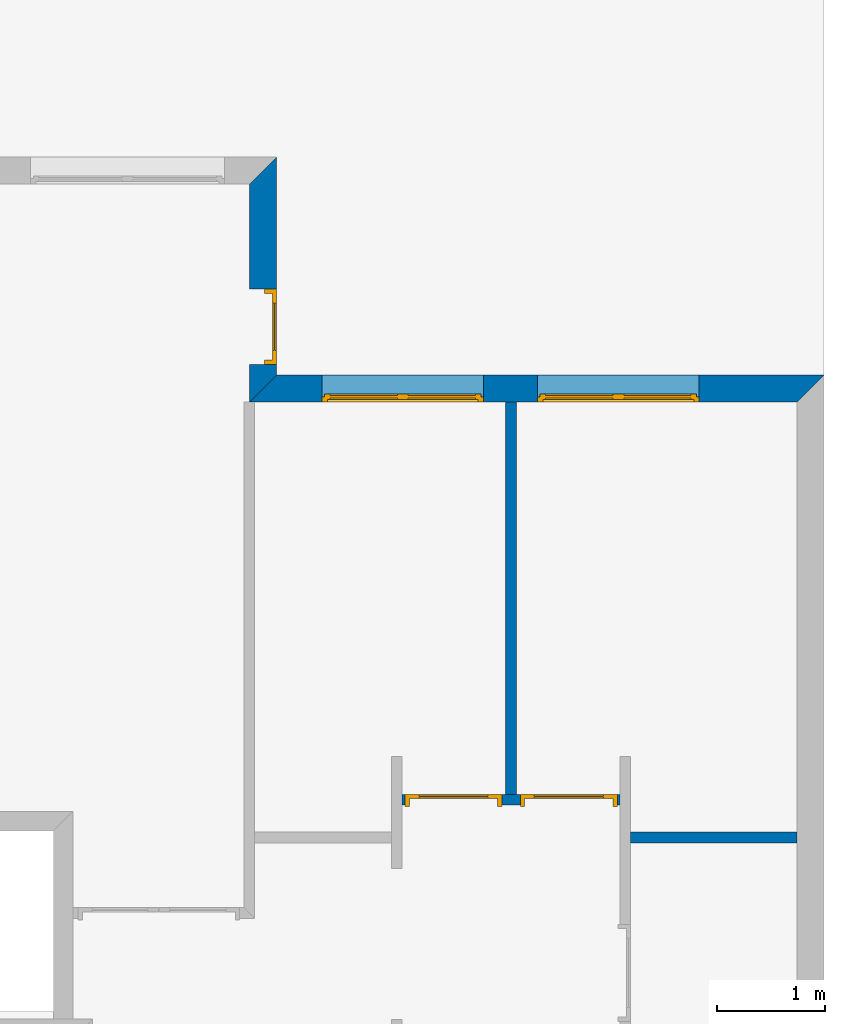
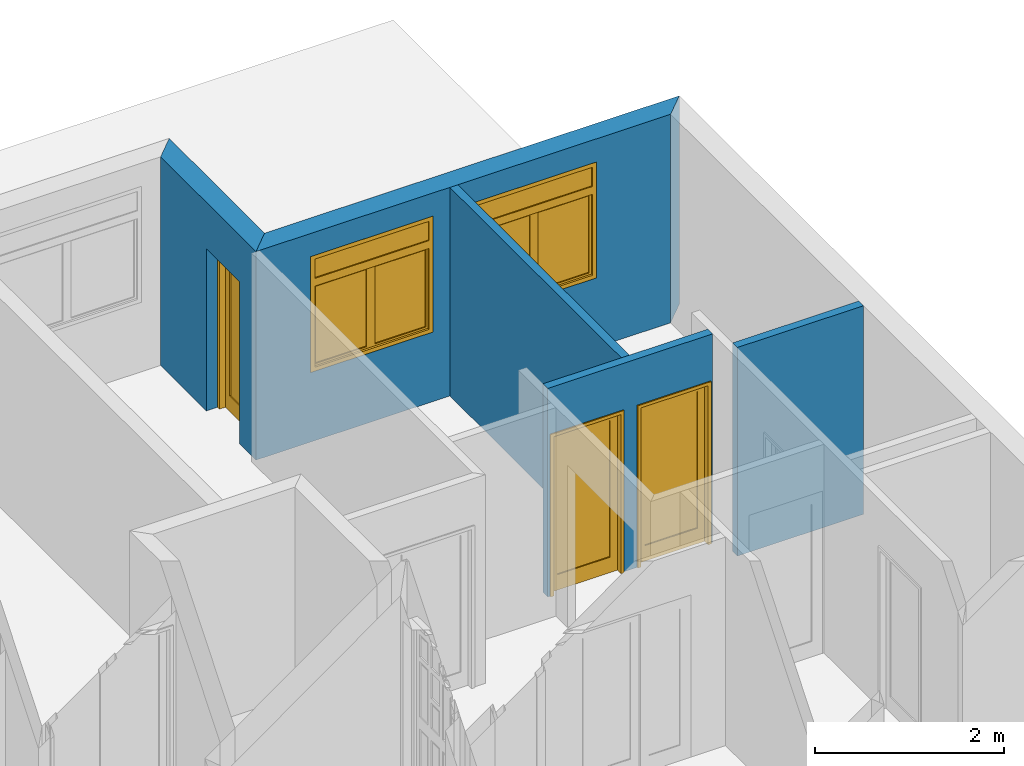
# One storey, part 12 of 12: 5 walls, 3 doors, 2 windows, 5 openings.
"""IFC2X3 building model written with IfcOpenShell, lengths in metres."""

import ifcopenshell
import ifcopenshell.guid

model = None  # the IFC model being written
_history = None  # IfcOwnerHistory: only IFC2X3 demands one
_inside = {}  # id of a spatial element -> (the spatial element, [elements in it])
_under = {}  # id of a project, library or spatial element -> (it, [spatial elements below it])
_declared = {}  # id of a project -> (the project, [libraries it declares])
_typed = {}  # id of a type object -> (the type object, [elements of that type])
_made_of = {}  # id of a material, layer set ... -> (it, [elements and type objects made of it])


def new_model(schema):
    """Start an empty IFC model of exactly this schema.

    Asked for "IFC4X3", IfcOpenShell would pick the latest addendum, in which some entities
    have other attributes; the version numbers below select the first issue.
    IFC2X3 requires an IfcOwnerHistory on every rooted entity: one is made here for all.
    """
    global model, _history
    if schema == "IFC4X3":
        model = ifcopenshell.file(schema_version=(4, 3, 0, 0))
    else:
        model = ifcopenshell.file(schema=schema)
    _inside.clear()
    _under.clear()
    _declared.clear()
    _typed.clear()
    _made_of.clear()
    _history = None
    if model.schema == "IFC2X3":
        org = make("IfcOrganization", Name="unknown")
        user = make(
            "IfcPersonAndOrganization",
            ThePerson=make("IfcPerson", FamilyName="unknown"),
            TheOrganization=org,
        )
        app = make(
            "IfcApplication",
            ApplicationDeveloper=org,
            Version="unknown",
            ApplicationFullName="unknown",
            ApplicationIdentifier="unknown",
        )
        _history = make(
            "IfcOwnerHistory",
            OwningUser=user,
            OwningApplication=app,
            ChangeAction="ADDED",
            CreationDate=0,
        )
    return model


def make(cls, **values):
    """One entity of the class cls with the attributes given. An attribute that is None is left unset."""
    return model.create_entity(
        cls, **{name: value for name, value in values.items() if value is not None}
    )


def entity(cls, *values):
    """Any entity or typed value of the class cls, its attributes in the order of the schema. None: left unset."""
    e = model.create_entity(cls)
    for i, value in enumerate(values):
        if value is not None:
            e[i] = value
    return e


def rooted(cls, **values):
    """An entity with a GlobalId (a new one), such as an element, a storey or a relation."""
    return make(cls, GlobalId=ifcopenshell.guid.new(), OwnerHistory=_history, **values)


def si_unit(unit_type, name, prefix=None):
    """IfcSIUnit, for example si_unit("LENGTHUNIT", "METRE", prefix="MILLI")."""
    return make("IfcSIUnit", UnitType=unit_type, Prefix=prefix, Name=name)


def converted_unit(unit_type, name, factor, base, dimensions=None, offset=None):
    """IfcConversionBasedUnit, such as the inch: factor (a typed value) times the base unit."""
    return make(
        "IfcConversionBasedUnit"
        if offset is None
        else "IfcConversionBasedUnitWithOffset",
        ConversionOffset=offset,
        Dimensions=None
        if dimensions is None
        else entity("IfcDimensionalExponents", *dimensions),
        UnitType=unit_type,
        Name=name,
        ConversionFactor=make(
            "IfcMeasureWithUnit", ValueComponent=factor, UnitComponent=base
        ),
    )


def assignment(units):
    """IfcUnitAssignment: the units of a project."""
    return None if units is None else make("IfcUnitAssignment", Units=units)


def point(xyz):
    """IfcCartesianPoint."""
    return None if xyz is None else make("IfcCartesianPoint", Coordinates=xyz)


def direction(xyz):
    """IfcDirection."""
    return None if xyz is None else make("IfcDirection", DirectionRatios=xyz)


def frame(location, z_axis=None, x_axis=None):
    """IfcAxis2Placement3D, a coordinate frame: its origin and axes. An axis left out is left unset."""
    return make(
        "IfcAxis2Placement3D",
        Location=point(location),
        Axis=direction(z_axis),
        RefDirection=direction(x_axis),
    )


def frame_2d(location, x_axis=None):
    """IfcAxis2Placement2D, a coordinate frame in the plane: its origin and x axis."""
    return make(
        "IfcAxis2Placement2D", Location=point(location), RefDirection=direction(x_axis)
    )


def origin_with_axes():
    """The frame at (0, 0, 0) with the z axis (0, 0, 1) and the x axis (1, 0, 0) written out."""
    return frame((0.0, 0.0, 0.0), z_axis=(0.0, 0.0, 1.0), x_axis=(1.0, 0.0, 0.0))


def place(relative_to, where):
    """IfcLocalPlacement: puts the frame where relative to a parent placement (None: the world)."""
    return make(
        "IfcLocalPlacement", PlacementRelTo=relative_to, RelativePlacement=where
    )


def context(
    kind, dimensions, precision=None, world=None, true_north=None, identifier=None
):
    """IfcGeometricRepresentationContext, for example the 3D "Model" context."""
    return make(
        "IfcGeometricRepresentationContext",
        ContextIdentifier=identifier,
        ContextType=kind,
        CoordinateSpaceDimension=dimensions,
        Precision=precision,
        WorldCoordinateSystem=world,
        TrueNorth=true_north,
    )


def project(units=None, contexts=None):
    """IfcProject with its units and contexts."""
    return rooted(
        "IfcProject",
        Name="project",
        RepresentationContexts=contexts,
        UnitsInContext=assignment(units),
    )


def spatial(cls, under=None, at=None, **own):
    """A site, building, storey or space (cls), placed at a placement, below another one or the project."""
    s = rooted(cls, ObjectPlacement=at, **own)
    if under is not None:
        _under.setdefault(under.id(), (under, []))[1].append(s)
    return s


def polyline(points):
    """IfcPolyline through the points."""
    return make("IfcPolyline", Points=[point(p) for p in points])


def profile(cls, at=None, kind="AREA", **sizes):
    """A parametric profile (cls). Its sizes go by their IFC names, for example OverallWidth=200.0."""
    return make(cls, ProfileType=kind, Position=at, **sizes)


def rectangle(**sizes):
    """IfcRectangleProfileDef."""
    return profile("IfcRectangleProfileDef", **sizes)


def outline(outer, holes=None, kind="AREA"):
    """IfcArbitraryClosedProfileDef: a profile drawn as a closed curve; with holes, ...WithVoids."""
    if holes is None:
        return make("IfcArbitraryClosedProfileDef", ProfileType=kind, OuterCurve=outer)
    return make(
        "IfcArbitraryProfileDefWithVoids",
        ProfileType=kind,
        OuterCurve=outer,
        InnerCurves=holes,
    )


def extrude(swept, where, along, depth):
    """IfcExtrudedAreaSolid: the profile swept, set in the frame where, extruded along a direction by depth."""
    return make(
        "IfcExtrudedAreaSolid",
        SweptArea=swept,
        Position=where,
        ExtrudedDirection=direction(along),
        Depth=depth,
    )


def faces_of(points, faces, orient=None, outer=None):
    """IfcFace entities. A face is a list of loops; a loop is a list of indices into points, from 0.

    orient and outer hold one flag for each loop. By default every Orientation is true, the
    first loop of a face is its IfcFaceOuterBound and the others are IfcFaceBound.
    """
    made = []
    for i, loops in enumerate(faces):
        bounds = []
        for j, loop in enumerate(loops):
            is_outer = j == 0 if outer is None else outer[i][j]
            bounds.append(
                make(
                    "IfcFaceOuterBound" if is_outer else "IfcFaceBound",
                    Bound=make("IfcPolyLoop", Polygon=[points[k] for k in loop]),
                    Orientation=True if orient is None else orient[i][j],
                )
            )
        made.append(make("IfcFace", Bounds=bounds))
    return made


def faceted_brep(points, faces, orient=None, outer=None, voids=None):
    """IfcFacetedBrep: a solid bounded by flat faces; with voids (closed shells), ...WithVoids."""
    shared = [point(p) for p in points]
    hull = make("IfcClosedShell", CfsFaces=faces_of(shared, faces, orient, outer))
    if voids is None:
        return make("IfcFacetedBrep", Outer=hull)
    return make(
        "IfcFacetedBrepWithVoids",
        Outer=hull,
        Voids=[
            make(cls, CfsFaces=faces_of(shared, fs, o, b)) for cls, fs, o, b in voids
        ],
    )


def shape(context_of_items, identifier, shape_type, items):
    """IfcShapeRepresentation: the items that make up one representation, for example the "Body"."""
    return make(
        "IfcShapeRepresentation",
        ContextOfItems=context_of_items,
        RepresentationIdentifier=identifier,
        RepresentationType=shape_type,
        Items=items,
    )


def source(mapping_origin, context_of_items, identifier, shape_type, items):
    """IfcRepresentationMap: a shape defined once, which mapped items show again and again."""
    return make(
        "IfcRepresentationMap",
        MappingOrigin=mapping_origin,
        MappedRepresentation=shape(context_of_items, identifier, shape_type, items),
    )


def transform(
    local_origin,
    x_axis=None,
    y_axis=None,
    z_axis=None,
    scale=None,
    scale2=None,
    scale3=None,
    uniform=True,
):
    """IfcCartesianTransformationOperator3D, or its non-uniform kind. x_axis, y_axis, z_axis: its Axis1, 2, 3."""
    if uniform:
        return make(
            "IfcCartesianTransformationOperator3D",
            Axis1=direction(x_axis),
            Axis2=direction(y_axis),
            LocalOrigin=point(local_origin),
            Scale=scale,
            Axis3=direction(z_axis),
        )
    return make(
        "IfcCartesianTransformationOperator3DnonUniform",
        Axis1=direction(x_axis),
        Axis2=direction(y_axis),
        LocalOrigin=point(local_origin),
        Scale=scale,
        Axis3=direction(z_axis),
        Scale2=scale2,
        Scale3=scale3,
    )


def mapped(mapping_source, mapping_target):
    """IfcMappedItem: shows the shape of a source again, moved by a transform."""
    return make(
        "IfcMappedItem", MappingSource=mapping_source, MappingTarget=mapping_target
    )


def material(Name=None, Category=None):
    """IfcMaterial."""
    return make("IfcMaterial", Name=Name, Category=Category)


def layer(
    of_material, thickness, ventilated=None, Name=None, Category=None, Priority=None
):
    """IfcMaterialLayer: one layer of a wall or slab, of a material (None: an air gap)."""
    return make(
        "IfcMaterialLayer",
        Material=of_material,
        LayerThickness=thickness,
        IsVentilated=ventilated,
        Name=Name,
        Category=Category,
        Priority=Priority,
    )


def layer_set(layers, Name=None):
    """IfcMaterialLayerSet."""
    return make("IfcMaterialLayerSet", MaterialLayers=layers, LayerSetName=Name)


def layer_usage(for_layer_set, set_direction, sense, offset, extent=None):
    """IfcMaterialLayerSetUsage: how a layer set lies in its element."""
    return make(
        "IfcMaterialLayerSetUsage",
        ForLayerSet=for_layer_set,
        LayerSetDirection=set_direction,
        DirectionSense=sense,
        OffsetFromReferenceLine=offset,
        ReferenceExtent=extent,
    )


def made_of(thing, what):
    """Note that an element or type object is made of a material, layer set ...; save() writes the relation."""
    if what is not None:
        _made_of.setdefault(what.id(), (what, []))[1].append(thing)
    return thing


def type_object(cls, material=None, **own):
    """A type object (cls), such as IfcWallType, which elements share."""
    return made_of(rooted(cls, **own), material)


def element(
    cls,
    number,
    at=None,
    inside=None,
    cuts=None,
    type_object=None,
    material=None,
    context=None,
    identifier="Body",
    shape_type=None,
    held_by="IfcProductDefinitionShape",
    body=None,
    shapes=None,
    **own,
):
    """One element of the class cls, such as IfcWall. Its Tag is "e" and its number.

    at: its placement. inside: the storey or other place that contains it. cuts: it is an
    opening in that element (IfcRelVoidsElement). A single representation is given by context,
    identifier, shape_type and body (its items); several are given by shapes. held_by: the class
    of the entity that holds the representations. save() writes the other relations.
    """
    e = rooted(cls, Tag="e%d" % number, ObjectPlacement=at, **own)
    if body is not None:
        shapes = [shape(context, identifier, shape_type, body)]
    if shapes is not None:
        e.Representation = make(held_by, Representations=shapes)
    if inside is not None:
        _inside.setdefault(inside.id(), (inside, []))[1].append(e)
    if cuts is not None:
        rooted(
            "IfcRelVoidsElement", RelatingBuildingElement=cuts, RelatedOpeningElement=e
        )
    if type_object is not None:
        _typed.setdefault(type_object.id(), (type_object, []))[1].append(e)
    return made_of(e, material)


def fill(opening, filler):
    """IfcRelFillsElement: the door or window that sits in an opening."""
    return rooted(
        "IfcRelFillsElement",
        RelatingOpeningElement=opening,
        RelatedBuildingElement=filler,
    )


def aggregate(whole, parts):
    """IfcRelAggregates: a whole, such as a stair, and the parts it consists of."""
    return rooted("IfcRelAggregates", RelatingObject=whole, RelatedObjects=parts)


def save(model, path):
    """Write the relations noted so far, then the file.

    IfcRelAggregates (storeys below a building ...), IfcRelContainedInSpatialStructure (elements
    in a storey), IfcRelDefinesByType, IfcRelAssociatesMaterial and IfcRelDeclares: one each for
    every whole, place, type object, material and project.
    """
    for whole, parts in _under.values():
        aggregate(whole, parts)
    for where, things in _inside.values():
        rooted(
            "IfcRelContainedInSpatialStructure",
            RelatedElements=things,
            RelatingStructure=where,
        )
    for kind, things in _typed.values():
        rooted("IfcRelDefinesByType", RelatedObjects=things, RelatingType=kind)
    for what, things in _made_of.values():
        rooted("IfcRelAssociatesMaterial", RelatedObjects=things, RelatingMaterial=what)
    for by, libraries in _declared.values():
        rooted("IfcRelDeclares", RelatingContext=by, RelatedDefinitions=libraries)
    model.write(path)


model = new_model("IFC2X3")

# Units and contexts
context_of_model = context(None, 3, precision=1e-05, world=origin_with_axes(), true_north=direction((6.123234e-17, 1.0)))
plan_context = context("Plan", 3, precision=1e-05, world=origin_with_axes(), true_north=direction((6.123234e-17, 1.0)))
model_context = context("Model", 3, precision=1e-05, world=origin_with_axes(), true_north=direction((6.123234e-17, 1.0)))
ifc_project = project(units=[si_unit("LENGTHUNIT", "METRE"), si_unit("AREAUNIT", "SQUARE_METRE"), si_unit("VOLUMEUNIT", "CUBIC_METRE"), converted_unit("PLANEANGLEUNIT", "DEGREE", entity("IfcPlaneAngleMeasure", 0.017453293), si_unit("PLANEANGLEUNIT", "RADIAN"), dimensions=[0, 0, 0, 0, 0, 0, 0]), si_unit("SOLIDANGLEUNIT", "STERADIAN"), si_unit("MASSUNIT", "GRAM"), si_unit("TIMEUNIT", "SECOND"), si_unit("THERMODYNAMICTEMPERATUREUNIT", "DEGREE_CELSIUS"), si_unit("LUMINOUSINTENSITYUNIT", "LUMEN")], contexts=[context_of_model, plan_context, model_context])

# Site, building, storey
site_placement = place(None, origin_with_axes())
site = spatial("IfcSite", under=ifc_project, at=site_placement, Name="Por defecto Sitio", CompositionType="ELEMENT")
building_placement = place(site_placement, origin_with_axes())
building = spatial("IfcBuilding", under=site, at=building_placement, Name="Por defecto Edificio", CompositionType="ELEMENT")
storey_placement = place(building_placement, frame((0.0, 0.0, 4.2), z_axis=(0.0, 0.0, 1.0), x_axis=(1.0, 0.0, 0.0)))
storey = spatial("IfcBuildingStorey", under=building, at=storey_placement, Name="Primera", CompositionType="ELEMENT", Elevation=4.2)

# Wall, opening, door
ifc_material = material(Name="Ladrillo común")
ifc_layer_1 = layer(ifc_material, 0.25, ventilated="UNKNOWN")
ifc_layer_set_1 = layer_set([ifc_layer_1], Name="Ladrillo común")
ifc_layer_usage_1 = layer_usage(ifc_layer_set_1, "AXIS2", "NEGATIVE", 0.0)
wall_type_1 = type_object("IfcWallType", Name="Ladrillo común", PredefinedType="NOTDEFINED")
wall_1_placement = place(storey_placement, frame((10.956053, 15.472599, 0.0), z_axis=(0.0, 0.0, 1.0), x_axis=(0.0, -1.0, 0.0)))
wall_1 = element("IfcWallStandardCase", 1, at=wall_1_placement, inside=storey, type_object=wall_type_1, material=ifc_layer_usage_1, Name="Muro-015", context=context_of_model, shape_type="SweptSolid", body=[
    extrude(outline(polyline([(0.25, -0.25), (2.2734265, -0.25), (2.0234265, 0.0), (0.0, 0.0), (0.25, -0.25)])), origin_with_axes(), (0.0, 0.0, 1.0), 2.7),
])
opening_1_placement = place(wall_1_placement, frame((1.5733904, -0.25, 0.0), z_axis=(0.0, 0.0, 1.0), x_axis=(1.0, 0.0, 0.0)))
opening_1 = element("IfcOpeningElement", 2, at=opening_1_placement, cuts=wall_1, ObjectType="Opening", context=model_context, shape_type="SweptSolid", body=[
    extrude(rectangle(XDim=0.7, YDim=2.1, at=frame_2d((0.0, 1.05), x_axis=(-1.0, 0.0))), frame((0.0, 0.0, 0.0), z_axis=(0.0, 1.0, 0.0), x_axis=(-1.0, 0.0, 0.0)), (0.0, 0.0, 1.0), 0.25),
])
door_style_1 = type_object("IfcDoorStyle", Name="P1 12", ConstructionType="NOTDEFINED", OperationType="SINGLE_SWING_RIGHT", ParameterTakesPrecedence=False, Sizeable=False)
shared_shape_1 = source(origin_with_axes(), model_context, "Body", "Brep", [
    faceted_brep([(0.04, 0.075, 0.0), (0.04, 0.075, 2.06), (0.04, 0.0, 2.06), (0.04, 0.0, 0.0), (0.028, 0.075, 2.06), (0.028, 0.075, 0.0), (0.028, 0.115, 2.06), (0.0, 0.115, 2.06), (0.0, 0.0, 2.06), (0.0, 0.0, 0.0), (0.0, 0.115, 0.0), (0.028, 0.115, 0.0)], [[[0, 1, 2, 3]], [[4, 1, 0, 5]], [[4, 6, 7, 8, 2, 1]], [[9, 3, 2, 8]], [[5, 0, 3, 9, 10, 11]], [[6, 4, 5, 11]], [[6, 11, 10, 7]], [[8, 7, 10, 9]]]),
    faceted_brep([(0.672, 0.075, 2.06), (0.66, 0.075, 2.06), (0.66, 0.0, 2.06), (0.7, 0.0, 2.06), (0.7, 0.115, 2.06), (0.672, 0.115, 2.06), (0.672, 0.075, 0.0), (0.66, 0.075, 0.0), (0.66, 0.0, 0.0), (0.7, 0.0, 0.0), (0.7, 0.115, 0.0), (0.672, 0.115, 0.0)], [[[0, 1, 2, 3, 4, 5]], [[1, 0, 6, 7]], [[1, 7, 8, 2]], [[8, 9, 3, 2]], [[9, 10, 4, 3]], [[11, 5, 4, 10]], [[0, 5, 11, 6]], [[6, 11, 10, 9, 8, 7]]]),
    faceted_brep([(0.028, 0.115, 2.072), (0.028, 0.115, 2.06), (0.0, 0.115, 2.06), (0.0, 0.115, 2.1), (0.7, 0.115, 2.1), (0.7, 0.115, 2.06), (0.672, 0.115, 2.06), (0.672, 0.115, 2.072), (0.028, 0.075, 2.072), (0.028, 0.075, 2.06), (0.04, 0.075, 2.06), (0.04, 0.0, 2.06), (0.0, 0.0, 2.06), (0.0, 0.0, 2.1), (0.7, 0.0, 2.1), (0.7, 0.0, 2.06), (0.672, 0.075, 2.06), (0.66, 0.0, 2.06), (0.66, 0.075, 2.06), (0.672, 0.075, 2.072)], [[[0, 1, 2, 3, 4, 5, 6, 7]], [[1, 0, 8, 9]], [[9, 10, 11, 12, 2, 1]], [[13, 3, 2, 12]], [[14, 4, 3, 13]], [[15, 5, 4, 14]], [[16, 6, 5, 15, 17, 18]], [[7, 6, 16, 19]], [[0, 7, 19, 8]], [[16, 18, 10, 9, 8, 19]], [[10, 18, 17, 11]], [[14, 13, 12, 11, 17, 15]]]),
    faceted_brep([(0.672, 0.115, 0.2), (0.672, 0.075, 0.2), (0.572, 0.075, 0.2), (0.572, 0.115, 0.2), (0.672, 0.115, 1.972), (0.672, 0.075, 1.972), (0.572, 0.075, 1.972), (0.572, 0.115, 1.972)], [[[0, 1, 2, 3]], [[4, 5, 1, 0]], [[1, 5, 6, 2]], [[3, 2, 6, 7]], [[0, 3, 7, 4]], [[7, 6, 5, 4]]]),
    faceted_brep([(0.028, 0.115, 0.2), (0.028, 0.075, 0.2), (0.028, 0.075, 1.972), (0.028, 0.115, 1.972), (0.128, 0.115, 0.2), (0.128, 0.075, 0.2), (0.128, 0.075, 1.972), (0.128, 0.115, 1.972)], [[[0, 1, 2, 3]], [[4, 5, 1, 0]], [[1, 5, 6, 2]], [[3, 2, 6, 7]], [[0, 3, 7, 4]], [[7, 6, 5, 4]]]),
    faceted_brep([(0.672, 0.115, 0.0), (0.672, 0.075, 0.0), (0.028, 0.075, 0.0), (0.028, 0.115, 0.0), (0.672, 0.115, 0.2), (0.672, 0.075, 0.2), (0.572, 0.075, 0.2), (0.128, 0.075, 0.2), (0.028, 0.075, 0.2), (0.028, 0.115, 0.2), (0.128, 0.115, 0.2), (0.572, 0.115, 0.2)], [[[0, 1, 2, 3]], [[4, 5, 1, 0]], [[1, 5, 6, 7, 8, 2]], [[3, 2, 8, 9]], [[0, 3, 9, 10, 11, 4]], [[11, 6, 5, 4]], [[10, 7, 6, 11]], [[9, 8, 7, 10]]]),
    faceted_brep([(0.672, 0.115, 2.072), (0.672, 0.075, 2.072), (0.672, 0.075, 1.972), (0.672, 0.115, 1.972), (0.028, 0.115, 2.072), (0.028, 0.075, 2.072), (0.028, 0.075, 1.972), (0.128, 0.075, 1.972), (0.572, 0.075, 1.972), (0.572, 0.115, 1.972), (0.128, 0.115, 1.972), (0.028, 0.115, 1.972)], [[[0, 1, 2, 3]], [[4, 5, 1, 0]], [[1, 5, 6, 7, 8, 2]], [[3, 2, 8, 9]], [[0, 3, 9, 10, 11, 4]], [[11, 6, 5, 4]], [[10, 7, 6, 11]], [[9, 8, 7, 10]]]),
    faceted_brep([(0.572, 0.101, 0.2), (0.572, 0.089, 0.2), (0.128, 0.089, 0.2), (0.128, 0.101, 0.2), (0.572, 0.101, 1.972), (0.572, 0.089, 1.972), (0.128, 0.089, 1.972), (0.128, 0.101, 1.972)], [[[0, 1, 2, 3]], [[4, 5, 1, 0]], [[1, 5, 6, 2]], [[3, 2, 6, 7]], [[0, 3, 7, 4]], [[7, 6, 5, 4]]]),
])
door_1_placement = place(opening_1_placement, frame((-0.35, 0.135, 0.0), z_axis=(0.0, 0.0, 1.0), x_axis=(1.0, 0.0, 0.0)))
door_1 = element("IfcDoor", 3, at=door_1_placement, inside=storey, type_object=door_style_1, Name="P20", OverallHeight=2.1, OverallWidth=0.7, context=model_context, shape_type="MappedRepresentation", body=[
    mapped(shared_shape_1, transform((0.0, 0.0, 0.0), scale=1.0)),
])
fill(opening_1, door_1)

# Wall, openings, windows
ifc_layer_usage_2 = layer_usage(ifc_layer_set_1, "AXIS2", "NEGATIVE", 0.0)
wall_2_placement = place(storey_placement, frame((10.956053, 13.449173, 0.0), z_axis=(0.0, 0.0, 1.0), x_axis=(1.0, 0.0, 0.0)))
wall_2 = element("IfcWallStandardCase", 4, at=wall_2_placement, inside=storey, type_object=wall_type_1, material=ifc_layer_usage_2, Name="Muro-016", context=context_of_model, shape_type="SweptSolid", body=[
    extrude(outline(polyline([(-0.25, -0.25), (4.8281164, -0.25), (5.0781164, 0.0), (0.0, 0.0), (-0.25, -0.25)])), origin_with_axes(), (0.0, 0.0, 1.0), 2.7),
])
opening_2_placement = place(wall_2_placement, frame((3.1700422, -0.25, 0.9), z_axis=(0.0, 0.0, 1.0), x_axis=(1.0, 0.0, 0.0)))
opening_2 = element("IfcOpeningElement", 5, at=opening_2_placement, cuts=wall_2, ObjectType="Opening", context=model_context, shape_type="SweptSolid", body=[
    extrude(rectangle(XDim=1.5, YDim=1.5, at=frame_2d((0.0, 0.75), x_axis=(-1.0, 0.0))), frame((0.0, 0.0, 0.0), z_axis=(0.0, 1.0, 0.0), x_axis=(-1.0, 0.0, 0.0)), (0.0, 0.0, 1.0), 0.25),
])
opening_3_placement = place(wall_2_placement, frame((1.1700422, -0.25, 0.9), z_axis=(0.0, 0.0, 1.0), x_axis=(1.0, 0.0, 0.0)))
opening_3 = element("IfcOpeningElement", 6, at=opening_3_placement, cuts=wall_2, ObjectType="Opening", context=model_context, shape_type="SweptSolid", body=[
    extrude(rectangle(XDim=1.5, YDim=1.5, at=frame_2d((0.0, 0.75), x_axis=(-1.0, 0.0))), frame((0.0, 0.0, 0.0), z_axis=(0.0, 1.0, 0.0), x_axis=(-1.0, 0.0, 0.0)), (0.0, 0.0, 1.0), 0.25),
])
window_style_1 = type_object("IfcWindowStyle", Name="V M Doble 12", ConstructionType="NOTDEFINED", OperationType="DOUBLE_PANEL_HORIZONTAL", ParameterTakesPrecedence=False, Sizeable=False)
shared_shape_2 = source(origin_with_axes(), model_context, "Body", "Brep", [
    faceted_brep([(0.025, 0.05, 0.05), (0.0, 0.05, 0.05), (0.0, 0.05, 1.45), (0.05, 0.05, 1.45), (0.05, 0.05, 1.2), (0.05, 0.05, 1.125), (0.025, 0.05, 1.125), (0.025, 0.025, 0.05), (0.05, 0.025, 0.05), (0.05, 0.0, 0.05), (0.0, 0.0, 0.05), (0.0, 0.0, 1.45), (0.05, 0.0, 1.45), (0.05, 0.0, 1.2), (0.05, 0.025, 1.125), (0.05, 0.0, 1.1), (0.05, 0.025, 1.1), (0.025, 0.025, 1.125)], [[[0, 1, 2, 3, 4, 5, 6]], [[7, 8, 9, 10, 1, 0]], [[2, 1, 10, 11]], [[3, 2, 11, 12]], [[4, 3, 12, 13]], [[14, 5, 4, 13, 15, 16]], [[14, 17, 6, 5]], [[6, 17, 7, 0]], [[16, 8, 7, 17, 14]], [[16, 15, 9, 8]], [[13, 12, 11, 10, 9, 15]]]),
    faceted_brep([(1.475, 0.05, 1.125), (1.45, 0.05, 1.125), (1.45, 0.05, 1.2), (1.45, 0.05, 1.45), (1.5, 0.05, 1.45), (1.5, 0.05, 0.05), (1.475, 0.05, 0.05), (1.475, 0.025, 1.125), (1.45, 0.025, 1.125), (1.45, 0.025, 1.1), (1.45, 0.0, 1.1), (1.45, 0.0, 1.2), (1.45, 0.0, 1.45), (1.5, 0.0, 1.45), (1.5, 0.0, 0.05), (1.475, 0.025, 0.05), (1.45, 0.0, 0.05), (1.45, 0.025, 0.05)], [[[0, 1, 2, 3, 4, 5, 6]], [[0, 7, 8, 1]], [[8, 9, 10, 11, 2, 1]], [[3, 2, 11, 12]], [[4, 3, 12, 13]], [[5, 4, 13, 14]], [[15, 6, 5, 14, 16, 17]], [[6, 15, 7, 0]], [[17, 9, 8, 7, 15]], [[17, 16, 10, 9]], [[14, 13, 12, 11, 10, 16]]]),
    faceted_brep([(0.05, 0.05, 1.125), (0.05, 0.05, 1.2), (1.45, 0.05, 1.2), (1.45, 0.05, 1.125), (0.75, 0.05, 1.125), (0.05, 0.025, 1.125), (0.05, 0.025, 1.1), (0.05, 0.0, 1.1), (0.05, 0.0, 1.2), (1.45, 0.0, 1.2), (1.45, 0.025, 1.125), (1.45, 0.0, 1.1), (1.45, 0.025, 1.1), (0.75, 0.025, 1.125)], [[[0, 1, 2, 3, 4]], [[5, 6, 7, 8, 1, 0]], [[2, 1, 8, 9]], [[10, 3, 2, 9, 11, 12]], [[10, 13, 4, 3]], [[4, 13, 5, 0]], [[12, 6, 5, 13, 10]], [[12, 11, 7, 6]], [[9, 8, 7, 11]]]),
    faceted_brep([(1.45, 0.025, 0.05), (1.45, 0.0, 0.05), (1.5, 0.0, 0.05), (1.5, 0.05, 0.05), (1.475, 0.05, 0.05), (1.475, 0.025, 0.05), (0.05, 0.025, 0.05), (0.05, 0.0, 0.05), (0.0, 0.0, 0.05), (0.0, 0.0, 0.0), (1.5, 0.0, 0.0), (1.5, 0.05, 0.0), (0.025, 0.05, 0.025), (0.75, 0.05, 0.025), (1.475, 0.05, 0.025), (0.0, 0.05, 0.0), (0.0, 0.05, 0.05), (0.025, 0.05, 0.05), (1.475, 0.025, 0.025), (0.75, 0.025, 0.025), (0.025, 0.025, 0.025), (0.025, 0.025, 0.05)], [[[0, 1, 2, 3, 4, 5]], [[6, 7, 1, 0]], [[8, 9, 10, 2, 1, 7]], [[11, 3, 2, 10]], [[12, 13, 14, 4, 3, 11, 15, 16, 17]], [[14, 18, 5, 4]], [[5, 18, 19, 20, 21, 6, 0]], [[21, 17, 16, 8, 7, 6]], [[16, 15, 9, 8]], [[15, 11, 10, 9]], [[12, 20, 19, 13]], [[13, 19, 18, 14]], [[21, 20, 12, 17]]]),
    faceted_brep([(1.45, 0.0, 1.45), (1.45, 0.05, 1.45), (1.5, 0.05, 1.45), (1.5, 0.0, 1.45), (0.05, 0.0, 1.45), (0.05, 0.05, 1.45), (0.0, 0.05, 1.45), (0.0, 0.05, 1.5), (1.5, 0.05, 1.5), (1.5, 0.0, 1.5), (0.0, 0.0, 1.5), (0.0, 0.0, 1.45)], [[[0, 1, 2, 3]], [[4, 5, 1, 0]], [[1, 5, 6, 7, 8, 2]], [[3, 2, 8, 9]], [[0, 3, 9, 10, 11, 4]], [[11, 6, 5, 4]], [[10, 7, 6, 11]], [[9, 8, 7, 10]]]),
    faceted_brep([(1.425, 0.025, 0.075), (1.425, 0.025, 1.075), (1.425, 0.075, 1.075), (1.425, 0.075, 0.075), (1.475, 0.025, 0.075), (1.475, 0.025, 1.075), (1.475, 0.075, 1.075), (1.475, 0.075, 0.075)], [[[0, 1, 2, 3]], [[0, 4, 5, 1]], [[1, 5, 6, 2]], [[3, 2, 6, 7]], [[4, 0, 3, 7]], [[5, 4, 7, 6]]]),
    faceted_brep([(0.75, 0.025, 0.075), (0.75, 0.025, 1.075), (0.75, 0.075, 1.075), (0.75, 0.075, 0.075), (0.8, 0.025, 0.075), (0.8, 0.025, 1.075), (0.8, 0.075, 1.075), (0.8, 0.075, 0.075)], [[[0, 1, 2, 3]], [[0, 4, 5, 1]], [[1, 5, 6, 2]], [[3, 2, 6, 7]], [[4, 0, 3, 7]], [[5, 4, 7, 6]]]),
    faceted_brep([(0.75, 0.025, 0.025), (0.75, 0.025, 0.075), (0.75, 0.075, 0.075), (0.75, 0.075, 0.025), (1.475, 0.025, 0.025), (1.475, 0.025, 0.075), (1.425, 0.025, 0.075), (0.8, 0.025, 0.075), (0.8, 0.075, 0.075), (1.425, 0.075, 0.075), (1.475, 0.075, 0.075), (1.475, 0.075, 0.025)], [[[0, 1, 2, 3]], [[0, 4, 5, 6, 7, 1]], [[1, 7, 8, 2]], [[3, 2, 8, 9, 10, 11]], [[4, 0, 3, 11]], [[5, 4, 11, 10]], [[6, 5, 10, 9]], [[7, 6, 9, 8]]]),
    faceted_brep([(1.475, 0.025, 1.125), (1.475, 0.025, 1.075), (1.475, 0.075, 1.075), (1.475, 0.075, 1.125), (0.75, 0.025, 1.125), (0.75, 0.025, 1.075), (0.8, 0.025, 1.075), (1.425, 0.025, 1.075), (1.425, 0.075, 1.075), (0.8, 0.075, 1.075), (0.75, 0.075, 1.075), (0.75, 0.075, 1.125)], [[[0, 1, 2, 3]], [[0, 4, 5, 6, 7, 1]], [[1, 7, 8, 2]], [[3, 2, 8, 9, 10, 11]], [[4, 0, 3, 11]], [[5, 4, 11, 10]], [[6, 5, 10, 9]], [[7, 6, 9, 8]]]),
    faceted_brep([(1.425, 0.04, 0.075), (0.8, 0.04, 0.075), (0.8, 0.06, 0.075), (1.425, 0.06, 0.075), (1.425, 0.04, 1.075), (0.8, 0.04, 1.075), (0.8, 0.06, 1.075), (1.425, 0.06, 1.075)], [[[0, 1, 2, 3]], [[0, 4, 5, 1]], [[1, 5, 6, 2]], [[3, 2, 6, 7]], [[4, 0, 3, 7]], [[5, 4, 7, 6]]]),
    faceted_brep([(0.7, 0.025, 0.075), (0.7, 0.025, 1.075), (0.7, 0.075, 1.075), (0.7, 0.075, 0.075), (0.75, 0.025, 0.075), (0.75, 0.025, 1.075), (0.75, 0.075, 1.075), (0.75, 0.075, 0.075)], [[[0, 1, 2, 3]], [[0, 4, 5, 1]], [[1, 5, 6, 2]], [[3, 2, 6, 7]], [[4, 0, 3, 7]], [[5, 4, 7, 6]]]),
    faceted_brep([(0.025, 0.025, 0.075), (0.025, 0.025, 1.075), (0.025, 0.075, 1.075), (0.025, 0.075, 0.075), (0.075, 0.025, 0.075), (0.075, 0.025, 1.075), (0.075, 0.075, 1.075), (0.075, 0.075, 0.075)], [[[0, 1, 2, 3]], [[0, 4, 5, 1]], [[1, 5, 6, 2]], [[3, 2, 6, 7]], [[4, 0, 3, 7]], [[5, 4, 7, 6]]]),
    faceted_brep([(0.025, 0.025, 0.025), (0.025, 0.025, 0.075), (0.025, 0.075, 0.075), (0.025, 0.075, 0.025), (0.75, 0.025, 0.025), (0.75, 0.025, 0.075), (0.7, 0.025, 0.075), (0.075, 0.025, 0.075), (0.075, 0.075, 0.075), (0.7, 0.075, 0.075), (0.75, 0.075, 0.075), (0.75, 0.075, 0.025)], [[[0, 1, 2, 3]], [[0, 4, 5, 6, 7, 1]], [[1, 7, 8, 2]], [[3, 2, 8, 9, 10, 11]], [[4, 0, 3, 11]], [[5, 4, 11, 10]], [[6, 5, 10, 9]], [[7, 6, 9, 8]]]),
    faceted_brep([(0.75, 0.025, 1.125), (0.75, 0.025, 1.075), (0.75, 0.075, 1.075), (0.75, 0.075, 1.125), (0.025, 0.025, 1.125), (0.025, 0.025, 1.075), (0.075, 0.025, 1.075), (0.7, 0.025, 1.075), (0.7, 0.075, 1.075), (0.075, 0.075, 1.075), (0.025, 0.075, 1.075), (0.025, 0.075, 1.125)], [[[0, 1, 2, 3]], [[0, 4, 5, 6, 7, 1]], [[1, 7, 8, 2]], [[3, 2, 8, 9, 10, 11]], [[4, 0, 3, 11]], [[5, 4, 11, 10]], [[6, 5, 10, 9]], [[7, 6, 9, 8]]]),
    faceted_brep([(0.7, 0.04, 0.075), (0.075, 0.04, 0.075), (0.075, 0.06, 0.075), (0.7, 0.06, 0.075), (0.7, 0.04, 1.075), (0.075, 0.04, 1.075), (0.075, 0.06, 1.075), (0.7, 0.06, 1.075)], [[[0, 1, 2, 3]], [[0, 4, 5, 1]], [[1, 5, 6, 2]], [[3, 2, 6, 7]], [[4, 0, 3, 7]], [[5, 4, 7, 6]]]),
    faceted_brep([(1.45, 0.015, 1.2), (0.05, 0.015, 1.2), (0.05, 0.035, 1.2), (1.45, 0.035, 1.2), (1.45, 0.015, 1.45), (0.05, 0.015, 1.45), (0.05, 0.035, 1.45), (1.45, 0.035, 1.45)], [[[0, 1, 2, 3]], [[0, 4, 5, 1]], [[1, 5, 6, 2]], [[3, 2, 6, 7]], [[4, 0, 3, 7]], [[5, 4, 7, 6]]]),
])
window_1_placement = place(opening_2_placement, frame((-0.75, 0.0, 0.0), z_axis=(0.0, 0.0, 1.0), x_axis=(1.0, 0.0, 0.0)))
window_1 = element("IfcWindow", 7, at=window_1_placement, inside=storey, type_object=window_style_1, Name="V17", OverallHeight=1.5, OverallWidth=1.5, context=model_context, shape_type="MappedRepresentation", body=[
    mapped(shared_shape_2, transform((0.0, 0.0, 0.0), scale=1.0)),
])
fill(opening_2, window_1)
window_style_2 = type_object("IfcWindowStyle", Name="V M Doble 12", ConstructionType="NOTDEFINED", OperationType="DOUBLE_PANEL_HORIZONTAL", ParameterTakesPrecedence=False, Sizeable=False)
window_2_placement = place(opening_3_placement, frame((-0.75, 0.0, 0.0), z_axis=(0.0, 0.0, 1.0), x_axis=(1.0, 0.0, 0.0)))
window_2 = element("IfcWindow", 8, at=window_2_placement, inside=storey, type_object=window_style_2, Name="V18", OverallHeight=1.5, OverallWidth=1.5, context=model_context, shape_type="MappedRepresentation", body=[
    mapped(shared_shape_2, transform((0.0, 0.0, 0.0), scale=1.0)),
])
fill(opening_3, window_2)

# Wall
ifc_layer_2 = layer(ifc_material, 0.1, ventilated="UNKNOWN")
ifc_layer_set_2 = layer_set([ifc_layer_2], Name="Ladrillo común")
ifc_layer_usage_3 = layer_usage(ifc_layer_set_2, "AXIS2", "NEGATIVE", 0.0)
wall_type_2 = type_object("IfcWallType", Name="Ladrillo común", PredefinedType="NOTDEFINED")
wall_3_placement = place(storey_placement, frame((13.079835, 9.4609196, 0.0), z_axis=(0.0, 0.0, 1.0), x_axis=(0.0, 1.0, 0.0)))
element("IfcWallStandardCase", 9, at=wall_3_placement, inside=storey, type_object=wall_type_2, material=ifc_layer_usage_3, Name="Muro-039", context=context_of_model, shape_type="SweptSolid", body=[
    extrude(outline(polyline([(0.1, -0.1), (3.738253, -0.1), (3.738253, 0.0), (0.1, 0.0), (0.1, -0.1)])), origin_with_axes(), (0.0, 0.0, 1.0), 2.7),
])

# Wall, openings, doors
ifc_layer_usage_4 = layer_usage(ifc_layer_set_2, "AXIS2", "NEGATIVE", 0.0)
wall_4_placement = place(storey_placement, frame((14.139835, 9.4609196, 0.0), z_axis=(0.0, 0.0, 1.0), x_axis=(-1.0, 0.0, 0.0)))
wall_4 = element("IfcWallStandardCase", 10, at=wall_4_placement, inside=storey, type_object=wall_type_2, material=ifc_layer_usage_4, Name="Muro-038", context=context_of_model, shape_type="SweptSolid", body=[
    extrude(outline(polyline([(0.0, -0.1), (2.02, -0.1), (2.02, 0.0), (0.0, 0.0), (0.0, -0.1)])), origin_with_axes(), (0.0, 0.0, 1.0), 2.7),
])
opening_4_placement = place(wall_4_placement, frame((0.47352068, -0.1, 0.0), z_axis=(0.0, 0.0, 1.0), x_axis=(1.0, 0.0, 0.0)))
opening_4 = element("IfcOpeningElement", 11, at=opening_4_placement, cuts=wall_4, ObjectType="Opening", context=model_context, shape_type="SweptSolid", body=[
    extrude(rectangle(XDim=0.9, YDim=2.1, at=frame_2d((0.0, 1.05), x_axis=(-1.0, 0.0))), frame((0.0, 0.0, 0.0), z_axis=(0.0, 1.0, 0.0), x_axis=(-1.0, 0.0, 0.0)), (0.0, 0.0, 1.0), 0.1),
])
opening_5_placement = place(wall_4_placement, frame((1.5434387, -0.1, 0.0), z_axis=(0.0, 0.0, 1.0), x_axis=(1.0, 0.0, 0.0)))
opening_5 = element("IfcOpeningElement", 12, at=opening_5_placement, cuts=wall_4, ObjectType="Opening", context=model_context, shape_type="SweptSolid", body=[
    extrude(rectangle(XDim=0.9, YDim=2.1, at=frame_2d((0.0, 1.05), x_axis=(1.0, 0.0))), frame((0.0, 0.0, 0.0), z_axis=(0.0, 1.0, 0.0), x_axis=(-1.0, 0.0, 0.0)), (0.0, 0.0, 1.0), 0.1),
])
door_style_2 = type_object("IfcDoorStyle", Name="P1 12", ConstructionType="NOTDEFINED", OperationType="SINGLE_SWING_RIGHT", ParameterTakesPrecedence=False, Sizeable=False)
shared_shape_3 = source(origin_with_axes(), model_context, "Body", "Brep", [
    faceted_brep([(0.04, 0.075, -2.4492936e-18), (0.04, 0.075, 2.06), (0.04, -9.3258734e-14, 2.06), (0.04, -9.3258734e-14, -7.0417191e-18), (0.028, 0.075, 2.06), (0.028, 0.075, -2.4492936e-18), (0.028, 0.115, 2.06), (2.220446e-16, 0.115, 2.06), (1.7763568e-15, -9.4146912e-14, 2.06), (0.0, 0.0, 0.0), (2.220446e-16, 0.115, 3.3744595e-33), (0.028, 0.115, 3.2707143e-33)], [[[0, 1, 2, 3]], [[4, 1, 0, 5]], [[4, 6, 7, 8, 2, 1]], [[9, 3, 2, 8]], [[5, 0, 3, 9, 10, 11]], [[6, 4, 5, 11]], [[6, 11, 10, 7]], [[8, 7, 10, 9]]]),
    faceted_brep([(0.872, 0.075, 2.06), (0.86, 0.075, 2.06), (0.86, -8.0824236e-14, 2.06), (0.9, -7.9936058e-14, 2.06), (0.9, 0.115, 2.06), (0.872, 0.115, 2.06), (0.872, 0.075, -2.4492936e-18), (0.86, 0.075, -2.4492936e-18), (0.86, -8.0824236e-14, -7.0417191e-18), (0.9, -7.9936058e-14, -7.0417191e-18), (0.9, 0.115, -3.3744595e-33), (0.872, 0.115, -3.1644931e-33)], [[[0, 1, 2, 3, 4, 5]], [[1, 0, 6, 7]], [[1, 7, 8, 2]], [[8, 9, 3, 2]], [[9, 10, 4, 3]], [[11, 5, 4, 10]], [[0, 5, 11, 6]], [[6, 11, 10, 9, 8, 7]]]),
    faceted_brep([(0.028, 0.115, 2.072), (0.028, 0.115, 2.06), (2.220446e-16, 0.115, 2.06), (2.220446e-16, 0.115, 2.1), (0.9, 0.115, 2.1), (0.9, 0.115, 2.06), (0.872, 0.115, 2.06), (0.872, 0.115, 2.072), (0.028, 0.075, 2.072), (0.028, 0.075, 2.06), (0.04, 0.075, 2.06), (0.04, -9.3258734e-14, 2.06), (1.7763568e-15, -9.4146912e-14, 2.06), (1.7763568e-15, -9.4146912e-14, 2.1), (0.9, -7.9936058e-14, 2.1), (0.9, -7.9936058e-14, 2.06), (0.872, 0.075, 2.06), (0.86, -8.0824236e-14, 2.06), (0.86, 0.075, 2.06), (0.872, 0.075, 2.072)], [[[0, 1, 2, 3, 4, 5, 6, 7]], [[1, 0, 8, 9]], [[9, 10, 11, 12, 2, 1]], [[13, 3, 2, 12]], [[14, 4, 3, 13]], [[15, 5, 4, 14]], [[16, 6, 5, 15, 17, 18]], [[7, 6, 16, 19]], [[0, 7, 19, 8]], [[16, 18, 10, 9, 8, 19]], [[10, 18, 17, 11]], [[14, 13, 12, 11, 17, 15]]]),
    faceted_brep([(0.872, 0.115, 0.2), (0.872, 0.075, 0.2), (0.772, 0.075, 0.2), (0.772, 0.115, 0.2), (0.872, 0.115, 1.972), (0.872, 0.075, 1.972), (0.772, 0.075, 1.972), (0.772, 0.115, 1.972)], [[[0, 1, 2, 3]], [[4, 5, 1, 0]], [[1, 5, 6, 2]], [[3, 2, 6, 7]], [[0, 3, 7, 4]], [[7, 6, 5, 4]]]),
    faceted_brep([(0.028, 0.115, 0.2), (0.028, 0.075, 0.2), (0.028, 0.075, 1.972), (0.028, 0.115, 1.972), (0.128, 0.115, 0.2), (0.128, 0.075, 0.2), (0.128, 0.075, 1.972), (0.128, 0.115, 1.972)], [[[0, 1, 2, 3]], [[4, 5, 1, 0]], [[1, 5, 6, 2]], [[3, 2, 6, 7]], [[0, 3, 7, 4]], [[7, 6, 5, 4]]]),
    faceted_brep([(0.872, 0.115, -3.1644931e-33), (0.872, 0.075, -2.4492936e-18), (0.028, 0.075, -2.4492936e-18), (0.028, 0.115, 3.1644931e-33), (0.872, 0.115, 0.2), (0.872, 0.075, 0.2), (0.772, 0.075, 0.2), (0.128, 0.075, 0.2), (0.028, 0.075, 0.2), (0.028, 0.115, 0.2), (0.128, 0.115, 0.2), (0.772, 0.115, 0.2)], [[[0, 1, 2, 3]], [[4, 5, 1, 0]], [[1, 5, 6, 7, 8, 2]], [[3, 2, 8, 9]], [[0, 3, 9, 10, 11, 4]], [[11, 6, 5, 4]], [[10, 7, 6, 11]], [[9, 8, 7, 10]]]),
    faceted_brep([(0.872, 0.115, 2.072), (0.872, 0.075, 2.072), (0.872, 0.075, 1.972), (0.872, 0.115, 1.972), (0.028, 0.115, 2.072), (0.028, 0.075, 2.072), (0.028, 0.075, 1.972), (0.128, 0.075, 1.972), (0.772, 0.075, 1.972), (0.772, 0.115, 1.972), (0.128, 0.115, 1.972), (0.028, 0.115, 1.972)], [[[0, 1, 2, 3]], [[4, 5, 1, 0]], [[1, 5, 6, 7, 8, 2]], [[3, 2, 8, 9]], [[0, 3, 9, 10, 11, 4]], [[11, 6, 5, 4]], [[10, 7, 6, 11]], [[9, 8, 7, 10]]]),
    faceted_brep([(0.772, 0.101, 0.2), (0.772, 0.089, 0.2), (0.128, 0.089, 0.2), (0.128, 0.101, 0.2), (0.772, 0.101, 1.972), (0.772, 0.089, 1.972), (0.128, 0.089, 1.972), (0.128, 0.101, 1.972)], [[[0, 1, 2, 3]], [[4, 5, 1, 0]], [[1, 5, 6, 2]], [[3, 2, 6, 7]], [[0, 3, 7, 4]], [[7, 6, 5, 4]]]),
])
door_2_placement = place(opening_5_placement, frame((0.45, 0.115, 0.0), z_axis=(0.0, 0.0, 1.0), x_axis=(-1.0, 0.0, 0.0)))
door_2 = element("IfcDoor", 13, at=door_2_placement, inside=storey, type_object=door_style_2, Name="P22", OverallHeight=2.1, OverallWidth=0.9, context=model_context, shape_type="MappedRepresentation", body=[
    mapped(shared_shape_3, transform((0.0, 0.0, 0.0), scale=1.0)),
])
fill(opening_5, door_2)
door_style_3 = type_object("IfcDoorStyle", Name="P1 12", ConstructionType="NOTDEFINED", OperationType="SINGLE_SWING_LEFT", ParameterTakesPrecedence=False, Sizeable=False)
shared_shape_4 = source(origin_with_axes(), model_context, "Body", "Brep", [
    faceted_brep([(0.86, 0.075, -3.6739404e-18), (0.86, 0.0, 9.184851e-19), (0.86, 0.0, 2.06), (0.86, 0.075, 2.06), (0.872, 0.075, -3.6739404e-18), (0.872, 0.115, -6.123234e-18), (0.9, 0.115, -6.123234e-18), (0.9, 0.0, 9.184851e-19), (0.9, 0.0, 2.06), (0.872, 0.075, 2.06), (0.9, 0.115, 2.06), (0.872, 0.115, 2.06)], [[[0, 1, 2, 3]], [[4, 5, 6, 7, 1, 0]], [[7, 8, 2, 1]], [[9, 3, 2, 8, 10, 11]], [[9, 4, 0, 3]], [[11, 5, 4, 9]], [[11, 10, 6, 5]], [[8, 7, 6, 10]]]),
    faceted_brep([(0.028, 0.075, 2.06), (0.028, 0.115, 2.06), (0.0, 0.115, 2.06), (0.0, 0.0, 2.06), (0.04, 0.0, 2.06), (0.04, 0.075, 2.06), (0.028, 0.075, -3.6739404e-18), (0.028, 0.115, -6.123234e-18), (0.0, 0.115, -6.123234e-18), (0.0, 0.0, 0.0), (0.04, 0.0, 9.184851e-19), (0.04, 0.075, -3.6739404e-18)], [[[0, 1, 2, 3, 4, 5]], [[0, 6, 7, 1]], [[7, 8, 2, 1]], [[9, 3, 2, 8]], [[10, 4, 3, 9]], [[5, 4, 10, 11]], [[5, 11, 6, 0]], [[6, 11, 10, 9, 8, 7]]]),
    faceted_brep([(0.872, 0.115, 2.072), (0.028, 0.115, 2.072), (0.028, 0.115, 2.06), (0.0, 0.115, 2.06), (0.0, 0.115, 2.1), (0.9, 0.115, 2.1), (0.9, 0.115, 2.06), (0.872, 0.115, 2.06), (0.872, 0.075, 2.072), (0.028, 0.075, 2.072), (0.028, 0.075, 2.06), (0.04, 0.075, 2.06), (0.04, 0.0, 2.06), (0.0, 0.0, 2.06), (0.0, 0.0, 2.1), (0.9, 0.0, 2.1), (0.9, 0.0, 2.06), (0.872, 0.075, 2.06), (0.86, 0.0, 2.06), (0.86, 0.075, 2.06)], [[[0, 1, 2, 3, 4, 5, 6, 7]], [[0, 8, 9, 1]], [[1, 9, 10, 2]], [[10, 11, 12, 13, 3, 2]], [[13, 14, 4, 3]], [[14, 15, 5, 4]], [[15, 16, 6, 5]], [[17, 7, 6, 16, 18, 19]], [[7, 17, 8, 0]], [[10, 9, 8, 17, 19, 11]], [[19, 18, 12, 11]], [[14, 13, 12, 18, 16, 15]]]),
    faceted_brep([(0.028, 0.115, 0.2), (0.128, 0.115, 0.2), (0.128, 0.075, 0.2), (0.028, 0.075, 0.2), (0.028, 0.115, 1.972), (0.128, 0.115, 1.972), (0.128, 0.075, 1.972), (0.028, 0.075, 1.972)], [[[0, 1, 2, 3]], [[0, 4, 5, 1]], [[1, 5, 6, 2]], [[3, 2, 6, 7]], [[4, 0, 3, 7]], [[5, 4, 7, 6]]]),
    faceted_brep([(0.872, 0.115, 0.2), (0.872, 0.115, 1.972), (0.872, 0.075, 1.972), (0.872, 0.075, 0.2), (0.772, 0.115, 0.2), (0.772, 0.115, 1.972), (0.772, 0.075, 1.972), (0.772, 0.075, 0.2)], [[[0, 1, 2, 3]], [[0, 4, 5, 1]], [[1, 5, 6, 2]], [[3, 2, 6, 7]], [[4, 0, 3, 7]], [[5, 4, 7, 6]]]),
    faceted_brep([(0.028, 0.115, -6.123234e-18), (0.872, 0.115, -6.123234e-18), (0.872, 0.075, -3.6739404e-18), (0.028, 0.075, -3.6739404e-18), (0.028, 0.115, 0.2), (0.128, 0.115, 0.2), (0.772, 0.115, 0.2), (0.872, 0.115, 0.2), (0.872, 0.075, 0.2), (0.772, 0.075, 0.2), (0.128, 0.075, 0.2), (0.028, 0.075, 0.2)], [[[0, 1, 2, 3]], [[0, 4, 5, 6, 7, 1]], [[1, 7, 8, 2]], [[3, 2, 8, 9, 10, 11]], [[4, 0, 3, 11]], [[5, 4, 11, 10]], [[6, 5, 10, 9]], [[7, 6, 9, 8]]]),
    faceted_brep([(0.028, 0.115, 2.072), (0.028, 0.115, 1.972), (0.028, 0.075, 1.972), (0.028, 0.075, 2.072), (0.872, 0.115, 2.072), (0.872, 0.115, 1.972), (0.772, 0.115, 1.972), (0.128, 0.115, 1.972), (0.128, 0.075, 1.972), (0.772, 0.075, 1.972), (0.872, 0.075, 1.972), (0.872, 0.075, 2.072)], [[[0, 1, 2, 3]], [[0, 4, 5, 6, 7, 1]], [[1, 7, 8, 2]], [[3, 2, 8, 9, 10, 11]], [[4, 0, 3, 11]], [[5, 4, 11, 10]], [[6, 5, 10, 9]], [[7, 6, 9, 8]]]),
    faceted_brep([(0.128, 0.101, 0.2), (0.772, 0.101, 0.2), (0.772, 0.089, 0.2), (0.128, 0.089, 0.2), (0.128, 0.101, 1.972), (0.772, 0.101, 1.972), (0.772, 0.089, 1.972), (0.128, 0.089, 1.972)], [[[0, 1, 2, 3]], [[0, 4, 5, 1]], [[1, 5, 6, 2]], [[3, 2, 6, 7]], [[4, 0, 3, 7]], [[5, 4, 7, 6]]]),
])
door_3_placement = place(opening_4_placement, frame((0.45, 0.115, 0.0), z_axis=(0.0, 0.0, 1.0), x_axis=(-1.0, 0.0, 0.0)))
door_3 = element("IfcDoor", 14, at=door_3_placement, inside=storey, type_object=door_style_3, Name="P21", OverallHeight=2.1, OverallWidth=0.9, context=model_context, shape_type="MappedRepresentation", body=[
    mapped(shared_shape_4, transform((0.0, 0.0, 0.0), scale=1.0)),
])
fill(opening_4, door_3)

# Wall
ifc_layer_usage_5 = layer_usage(ifc_layer_set_2, "AXIS2", "NEGATIVE", 0.0)
wall_5_placement = place(storey_placement, frame((14.139835, 9.2109196, 0.0), z_axis=(0.0, 0.0, 1.0), x_axis=(1.0, 0.0, 0.0)))
element("IfcWallStandardCase", 15, at=wall_5_placement, inside=storey, type_object=wall_type_2, material=ifc_layer_usage_5, Name="Muro-037", context=context_of_model, shape_type="SweptSolid", body=[
    extrude(outline(polyline([(0.1, -0.1), (1.6443351, -0.1), (1.6443351, 0.0), (0.1, 0.0), (0.1, -0.1)])), origin_with_axes(), (0.0, 0.0, 1.0), 2.7),
])

save(model, "model.ifc")
